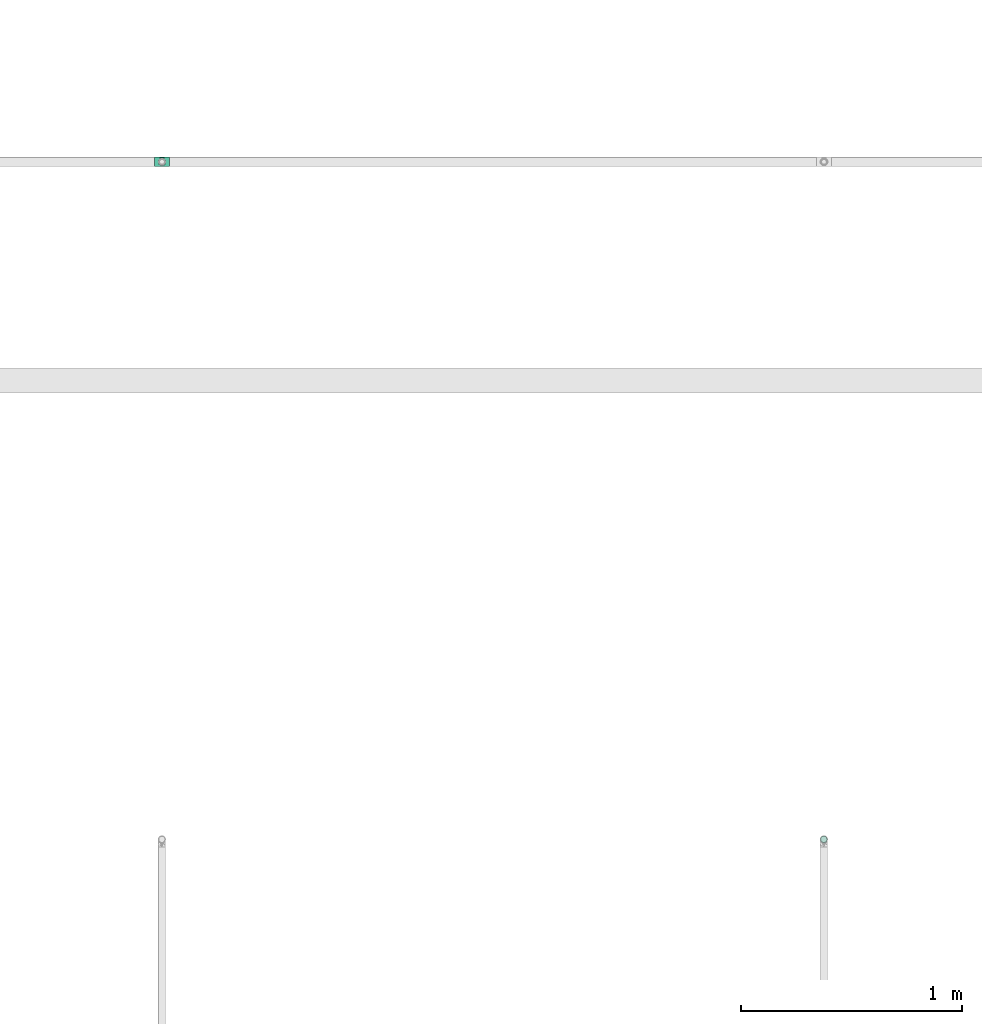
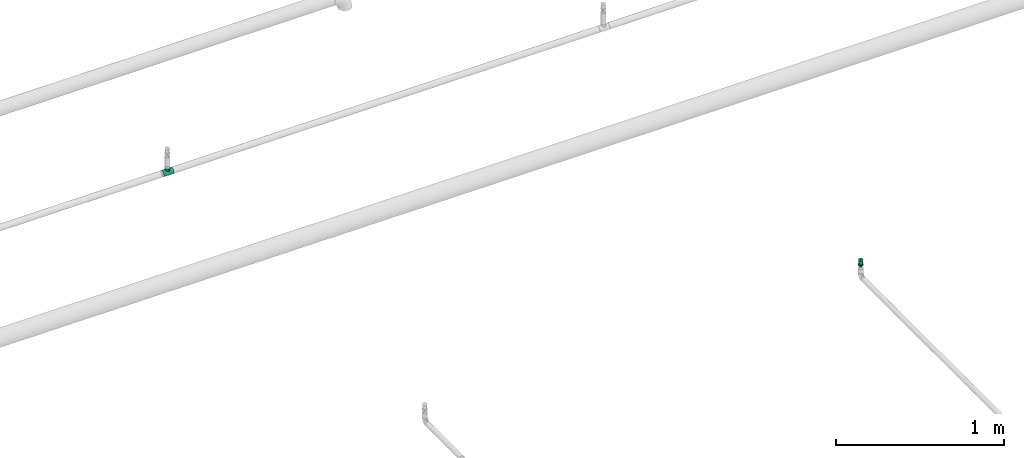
# One storey, part 28 of 94: 1 flow fitting, 1 flow terminal.
"""IFC2X3 building model written with IfcOpenShell, lengths in millimetres."""

from ifc_helpers import new_model, entity, si_unit, converted_unit, derived_unit, direction, frame, origin_with_axes, place, context, subcontext, project, spatial, open_shell, surface_model, source, transform, mapped, type_object, element, save


model = new_model("IFC2X3")

# Units and contexts
model_context = context("Model", 3, precision=0.01, world=frame((0.0, 4.29681676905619e-09, 0.0)), true_north=direction((4.01073788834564e-13, 1.0)))
plan_context = context("Plan", 3, precision=0.01, world=frame((0.0, 4.29681676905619e-09, 0.0)), true_north=direction((4.01073788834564e-13, 1.0)))
body_context = subcontext(model_context, "Body", "Model", "MODEL_VIEW")
ifc_project = project(units=[converted_unit("PLANEANGLEUNIT", "DEGREE", entity("IfcPositiveLengthMeasure", 0.0174532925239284), si_unit("PLANEANGLEUNIT", "RADIAN"), dimensions=[0, 0, 0, 0, 0, 0, 0]), si_unit("AREAUNIT", "SQUARE_METRE"), si_unit("LENGTHUNIT", "METRE", prefix="MILLI"), si_unit("MASSUNIT", "GRAM", prefix="KILO"), si_unit("POWERUNIT", "WATT"), si_unit("PRESSUREUNIT", "PASCAL"), si_unit("FORCEUNIT", "NEWTON", prefix="KILO"), si_unit("ELECTRICCURRENTUNIT", "AMPERE"), si_unit("THERMODYNAMICTEMPERATUREUNIT", "DEGREE_CELSIUS"), si_unit("TIMEUNIT", "SECOND"), si_unit("VOLUMEUNIT", "CUBIC_METRE"), derived_unit("LINEARVELOCITYUNIT", [(si_unit("LENGTHUNIT", "METRE"), 1), (si_unit("TIMEUNIT", "SECOND"), -1)]), derived_unit("VOLUMETRICFLOWRATEUNIT", [(si_unit("VOLUMEUNIT", "CUBIC_METRE"), 1), (si_unit("TIMEUNIT", "SECOND"), -1)]), derived_unit("THERMALTRANSMITTANCEUNIT", [(si_unit("POWERUNIT", "WATT"), 1), (si_unit("THERMODYNAMICTEMPERATUREUNIT", "KELVIN"), -1), (si_unit("AREAUNIT", "SQUARE_METRE"), -1)])], contexts=[model_context, plan_context])

# Site, building, storey
site_placement = place(None, frame((0.0, -4.29681676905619e-09, 0.0), z_axis=(0.0, 0.0, 1.0), x_axis=(1.0, 0.0, 0.0)))
site = spatial("IfcSite", under=ifc_project, at=site_placement, CompositionType="ELEMENT")
building_placement = place(site_placement, frame((0.0, 4.29681676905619e-09, 0.0), z_axis=(0.0, 0.0, 1.0), x_axis=(1.0, 0.0, 0.0)))
building = spatial("IfcBuilding", under=site, at=building_placement, Name="mc-building", CompositionType="ELEMENT")
storey_placement = place(building_placement, frame((0.0, 0.0, 200300.0), z_axis=(0.0, 0.0, 1.0), x_axis=(1.0, 0.0, 0.0)))
storey = spatial("IfcBuildingStorey", under=building, at=storey_placement, Name="Nivå C", CompositionType="ELEMENT", Elevation=200300.0)

# Flow fitting
pipe_fitting_type = type_object("IfcPipeFittingType", Name="magi_pipe_fe_tee_centric_90_NOR", PredefinedType="JUNCTION")
shared_shape_1 = source(origin_with_axes(), body_context, "Body", "SurfaceModel", [
    surface_model("IfcShellBasedSurfaceModel", [(-33.8, 0.0, -21.2), (-33.8, -5.48696, -20.47763), (-33.8, 5.48696, -20.47763), (-33.8, 10.6, -18.35974), (-33.8, 14.99066, -14.99066), (-33.8, -20.47763, 5.48696), (-33.8, 18.35974, -10.6), (-33.8, 10.6, 18.35974), (-33.8, -14.99066, -14.99066), (-33.8, -18.35974, -10.6), (-33.8, -10.6, -18.35974), (-33.8, -20.47763, -5.48696), (-33.8, -21.2, 0.0), (-33.8, 18.35974, 10.6), (-33.8, 20.47763, -5.48696), (-33.8, 20.47763, 5.48696), (-33.8, 21.2, 0.0), (-33.8, 14.99066, 14.99066), (-33.8, 5.48696, 20.47763), (-33.8, 0.0, 21.2), (-33.8, -18.35974, 10.6), (-33.8, -14.99066, 14.99066), (-33.8, -10.6, 18.35974), (-33.8, -5.48696, 20.47763), (33.8, 5.48696, -20.47763), (33.8, -5.48696, -20.47763), (33.8, 0.0, -21.2), (33.8, 14.99066, -14.99066), (33.8, 10.6, -18.35974), (33.8, 18.35974, -10.6), (33.8, 20.47763, -5.48696), (33.8, -21.2, 0.0), (33.8, -10.6, -18.35974), (33.8, -18.35974, -10.6), (33.8, -14.99066, -14.99066), (33.8, -20.47763, -5.48696), (33.8, -20.47763, 5.48696), (33.8, 21.2, 0.0), (33.8, 20.47763, 5.48696), (33.8, 18.35974, 10.6), (33.8, 10.6, 18.35974), (33.8, 14.99066, 14.99066), (33.8, 0.0, 21.2), (33.8, 5.48696, 20.47763), (33.8, -14.99066, 14.99066), (33.8, -18.35974, 10.6), (33.8, -10.6, 18.35974), (33.8, -5.48696, 20.47763), (16.9, -21.2, 0.0), (15.78624, -20.32327, 6.03364), (12.81343, -18.11115, 11.01935), (8.52479, -15.37862, 14.59239), (3.07939, -13.16482, 16.61708), (-16.9, -21.2, 0.0), (-15.78686, -20.32375, 6.032), (-8.52604, -15.37932, 14.59166), (-3.0848, -13.16609, 16.61608), (-12.81602, -18.11299, 11.01634), (3.07939, -13.16482, -16.61708), (12.81343, -18.11115, -11.01935), (8.52479, -15.37862, -14.59239), (15.78624, -20.32327, -6.03364), (-3.0848, -13.16609, -16.61608), (-8.52604, -15.37932, -14.59166), (-12.81602, -18.11299, -11.01634), (-15.78686, -20.32375, -6.032), (4.37404, -31.8, -16.32415), (-16.9, -31.8, 0.0), (0.0, -31.8, -16.9), (14.63583, -31.8, -8.45), (8.45, -31.8, -14.63583), (16.32415, -31.8, -4.37404), (11.9501, -31.8, -11.9501), (-11.9501, -31.8, -11.9501), (-8.45, -31.8, -14.63583), (-4.37404, -31.8, -16.32415), (-14.63583, -31.8, -8.45), (-16.32415, -31.8, -4.37404), (16.9, -31.8, 0.0), (8.45, -31.8, 14.63583), (16.32415, -31.8, 4.37404), (14.63583, -31.8, 8.45), (-8.45, -31.8, 14.63583), (11.9501, -31.8, 11.9501), (4.37404, -31.8, 16.32415), (-16.32415, -31.8, 4.37404), (-11.9501, -31.8, 11.9501), (-14.63583, -31.8, 8.45), (0.0, -31.8, 16.9), (-4.37404, -31.8, 16.32415), (-16.34343, -20.76188, 3.016), (16.34312, -20.76163, 3.01682), (-0.00271, -13.16546, 16.61658), (16.34312, -20.76163, -3.01682), (-0.00271, -13.16546, -16.61658), (-16.34343, -20.76188, -3.016)], [open_shell([[[0, 1, 2]], [[3, 2, 4]], [[5, 2, 1]], [[4, 2, 6]], [[6, 2, 7]], [[8, 9, 10]], [[1, 10, 9]], [[9, 11, 1]], [[12, 1, 11]], [[5, 1, 12]], [[13, 14, 6]], [[13, 15, 16]], [[6, 7, 13]], [[5, 7, 2]], [[17, 13, 7]], [[18, 7, 19]], [[20, 21, 5]], [[22, 5, 21]], [[23, 19, 22]], [[7, 5, 22]], [[22, 19, 7]], [[16, 14, 13]], [[24, 25, 26]], [[27, 24, 28]], [[29, 30, 24]], [[29, 24, 27]], [[31, 24, 30]], [[32, 33, 34]], [[33, 32, 25]], [[33, 31, 35]], [[31, 33, 25]], [[25, 24, 31]], [[30, 36, 31]], [[37, 38, 39]], [[37, 39, 40]], [[37, 40, 36]], [[40, 39, 41]], [[42, 40, 43]], [[36, 44, 45]], [[44, 36, 46]], [[46, 42, 47]], [[46, 36, 40]], [[40, 42, 46]], [[37, 36, 30]], [[31, 36, 48]], [[49, 48, 36]], [[36, 45, 49]], [[45, 44, 50]], [[51, 50, 44]], [[52, 51, 44]], [[44, 46, 52]], [[45, 50, 49]], [[53, 54, 5]], [[5, 12, 53]], [[54, 20, 5]], [[55, 56, 21]], [[20, 57, 21]], [[57, 20, 54]], [[21, 57, 55]], [[56, 22, 21]], [[52, 22, 56]], [[19, 47, 42]], [[23, 46, 47]], [[18, 42, 43]], [[39, 38, 15]], [[17, 40, 41]], [[13, 41, 39]], [[43, 40, 7]], [[16, 38, 37]], [[22, 46, 23]], [[23, 47, 19]], [[18, 19, 42]], [[43, 7, 18]], [[7, 40, 17]], [[13, 17, 41]], [[15, 13, 39]], [[38, 16, 15]], [[46, 22, 52]], [[6, 30, 29]], [[14, 37, 30]], [[4, 29, 27]], [[26, 25, 1]], [[2, 28, 24]], [[0, 24, 26]], [[27, 28, 3]], [[10, 25, 32]], [[16, 37, 14]], [[14, 30, 6]], [[4, 6, 29]], [[27, 3, 4]], [[3, 28, 2]], [[0, 2, 24]], [[1, 0, 26]], [[25, 10, 1]], [[32, 58, 10]], [[34, 59, 60]], [[59, 34, 33]], [[60, 58, 34]], [[34, 58, 32]], [[35, 31, 48]], [[35, 61, 33]], [[61, 35, 48]], [[33, 61, 59]], [[62, 63, 8]], [[8, 64, 9]], [[64, 8, 63]], [[62, 8, 10]], [[65, 53, 11]], [[65, 11, 9]], [[11, 53, 12]], [[65, 9, 64]], [[58, 62, 10]], [[66, 67, 68]], [[69, 66, 70]], [[69, 71, 66]], [[69, 70, 72]], [[67, 66, 71]], [[68, 73, 74]], [[74, 75, 68]], [[76, 67, 77]], [[73, 68, 76]], [[67, 76, 68]], [[71, 78, 67]], [[79, 78, 80]], [[79, 80, 81]], [[82, 67, 79]], [[79, 81, 83]], [[82, 79, 84]], [[85, 86, 87]], [[86, 85, 82]], [[82, 88, 89]], [[85, 67, 82]], [[84, 88, 82]], [[79, 67, 78]], [[85, 90, 67]], [[57, 87, 86]], [[85, 87, 54]], [[86, 82, 55]], [[85, 54, 90]], [[90, 53, 67]], [[54, 87, 57]], [[91, 49, 80]], [[55, 89, 56]], [[55, 57, 86]], [[88, 52, 92]], [[55, 82, 89]], [[52, 88, 84]], [[79, 51, 84]], [[50, 83, 81]], [[83, 51, 79]], [[81, 80, 49]], [[83, 50, 51]], [[51, 52, 84]], [[78, 91, 80]], [[49, 50, 81]], [[91, 78, 48]], [[88, 56, 89]], [[92, 56, 88]], [[71, 93, 78]], [[59, 69, 72]], [[71, 69, 61]], [[72, 70, 60]], [[93, 48, 78]], [[61, 69, 59]], [[60, 66, 58]], [[60, 59, 72]], [[68, 62, 94]], [[60, 70, 66]], [[95, 67, 53]], [[95, 65, 77]], [[71, 61, 93]], [[75, 62, 68]], [[65, 76, 77]], [[73, 76, 64]], [[68, 58, 66]], [[75, 63, 62]], [[63, 75, 74]], [[74, 73, 63]], [[63, 73, 64]], [[64, 76, 65]], [[67, 95, 77]], [[94, 58, 68]]])]),
])
flow_fitting_placement = place(storey_placement, frame((524508.72873, 407003.74497, 2850.0), z_axis=(0.0, -1.0, 0.0), x_axis=(-1.0, 0.0, 0.0)))
element("IfcFlowFitting", 1, at=flow_fitting_placement, inside=storey, type_object=pipe_fitting_type, Name="magi_pipe_fe_tee_centric_90_NOR", context=body_context, shape_type="MappedRepresentation", body=[
    mapped(shared_shape_1, transform((0.0, 0.0, 0.0), scale=1.0)),
])

# Flow terminal
fire_suppression_terminal_type = type_object("IfcFireSuppressionTerminalType", Name="68DGR-STD-STÅENDE", PredefinedType="NOTDEFINED")
shared_shape_2 = source(origin_with_axes(), body_context, "Body", "SurfaceModel", [
    surface_model("IfcShellBasedSurfaceModel", [(12.55704, 3.36465, 21.14766), (13.0, 0.0, 21.14766), (12.55704, -3.36465, 21.14766), (-12.55704, -3.36465, 21.14766), (-11.25833, -6.5, 21.14766), (-11.25833, -6.5, 51.0), (3.36465, -12.55704, 51.0), (3.36465, -12.55704, 21.14766), (6.5, -11.25833, 21.14766), (9.19239, -9.19239, 21.14766), (11.25833, -6.5, 21.14766), (9.19239, -9.19239, 51.0), (6.5, -11.25833, 51.0), (11.25833, -6.5, 51.0), (12.55704, -3.36465, 51.0), (13.0, 0.0, 51.0), (9.19239, 9.19239, 51.0), (11.25833, 6.5, 21.14766), (9.19239, 9.19239, 21.14766), (11.25833, 6.5, 51.0), (12.55704, 3.36465, 51.0), (6.5, 11.25833, 51.0), (6.5, 11.25833, 21.14766), (3.36465, 12.55704, 21.14766), (3.36465, 12.55704, 51.0), (-11.25833, 6.5, 51.0), (-11.25833, 6.5, 21.14766), (-12.55704, 3.36465, 21.14766), (0.0, -2.5, 51.0), (-2.5, 0.0, 51.0), (0.0, 2.5, 51.0), (2.5, 0.0, 51.0), (11.31371, 11.31371, 53.0), (-11.31371, 11.31371, 53.0), (-11.31371, -11.31371, 53.0), (11.31371, -11.31371, 53.0), (1.62635, 1.62635, 51.0), (2.16506, 1.25, 51.0), (1.99186, 1.15, 51.0), (-1.76777, 1.76777, 51.0), (-1.25, 2.16506, 51.0), (-1.62635, 1.62635, 51.0), (1.99186, -1.15, 51.0), (2.16506, -1.25, 51.0), (1.62635, -1.62635, 51.0), (-1.62635, -1.62635, 51.0), (-1.25, -2.16506, 51.0), (-1.76777, -1.76777, 51.0), (0.0, 7.3, 0.0), (1.94114, 7.24444, 0.0), (1.88938, 7.05126, 0.0), (5.16188, 5.16188, 0.0), (6.49519, 3.75, 0.0), (6.32199, 3.65, 0.0), (-5.3033, 5.3033, 0.0), (-3.75, 6.49519, 0.0), (-5.16188, 5.16188, 0.0), (6.32199, -3.65, 0.0), (6.49519, -3.75, 0.0), (5.16188, -5.16188, 0.0), (1.88938, -7.05126, 0.0), (1.94114, -7.24444, 0.0), (0.0, -7.3, 0.0), (-5.16188, -5.16188, 0.0), (-3.75, -6.49519, 0.0), (-5.3033, -5.3033, 0.0), (-3.36465, 12.55704, 51.0), (-6.5, 11.25833, 51.0), (0.0, 13.0, 51.0), (-9.19239, 9.19239, 51.0), (0.0, -13.0, 51.0), (-9.19239, -9.19239, 51.0), (-12.55704, -3.36465, 51.0), (-6.5, -11.25833, 51.0), (-3.36465, -12.55704, 51.0), (-7.5, 0.0, -0.1), (-7.24444, 1.94114, 0.1), (-7.24444, 1.94114, -0.1), (-6.49519, 3.75, 0.1), (-6.49519, 3.75, -0.1), (-3.75, 6.49519, -0.1), (-5.3033, 5.3033, -0.1), (-3.75, 6.49519, 0.1), (-5.3033, 5.3033, 0.1), (-1.94114, 7.24444, -0.1), (-1.94114, 7.24444, 0.1), (-7.5, 0.0, 0.1), (0.0, 7.5, 0.1), (0.0, 7.5, -0.1), (1.94114, 7.24444, 0.1), (1.94114, 7.24444, -0.1), (3.75, 6.49519, 0.1), (3.75, 6.49519, -0.1), (6.49519, 3.75, -0.1), (5.3033, 5.3033, -0.1), (6.49519, 3.75, 0.1), (5.3033, 5.3033, 0.1), (7.24444, 1.94114, -0.1), (7.24444, 1.94114, 0.1), (7.5, 0.0, 0.1), (7.5, 0.0, -0.1), (-7.24444, -1.94114, 0.1), (7.24444, -1.94114, 0.1), (5.3033, -5.3033, 0.1), (6.49519, -3.75, 0.1), (-6.49519, -3.75, 0.1), (0.0, -7.5, 0.1), (1.94114, -7.24444, 0.1), (3.75, -6.49519, 0.1), (-3.75, -6.49519, 0.1), (-1.94114, -7.24444, 0.1), (-5.3033, -5.3033, 0.1), (0.0, -7.5, -0.1), (-6.49519, -3.75, -0.1), (1.94114, -7.24444, -0.1), (3.75, -6.49519, -0.1), (5.3033, -5.3033, -0.1), (7.24444, -1.94114, -0.1), (6.49519, -3.75, -0.1), (-3.75, -6.49519, -0.1), (-5.3033, -5.3033, -0.1), (-1.94114, -7.24444, -0.1), (-7.24444, -1.94114, -0.1), (16.0, 0.0, 53.0), (0.0, -16.0, 53.0), (-16.0, 0.0, 53.0), (0.0, 16.0, 53.0), (0.64705, 2.41481, 57.0), (0.0, 2.5, 57.0), (1.25, 2.16506, 57.0), (-2.5, 0.0, 57.0), (1.76777, 1.76777, 57.0), (2.41481, 0.64705, 57.0), (2.16506, 1.25, 57.0), (-0.64705, 2.41481, 57.0), (-1.25, 2.16506, 57.0), (-1.76777, 1.76777, 57.0), (-2.16506, 1.25, 57.0), (-2.41481, 0.64705, 57.0), (2.5, 0.0, 57.0), (1.76777, -1.76777, 57.0), (2.16506, -1.25, 57.0), (2.41481, -0.64705, 57.0), (-2.41481, -0.64705, 57.0), (0.64705, -2.41481, 57.0), (1.25, -2.16506, 57.0), (0.0, -2.5, 57.0), (-1.76777, -1.76777, 57.0), (-2.16506, -1.25, 57.0), (-1.25, -2.16506, 57.0), (-0.64705, -2.41481, 57.0), (1.15, -1.99186, 51.0), (1.76777, -1.76777, 51.0), (1.25, -2.16506, 51.0), (0.59528, -2.22163, 51.0), (0.0, -2.3, 51.0), (0.64705, -2.41481, 51.0), (2.22163, -0.59528, 51.0), (2.3, 0.0, 51.0), (2.41481, -0.64705, 51.0), (-0.64705, -2.41481, 51.0), (-0.59528, -2.22163, 51.0), (-1.15, -1.99186, 51.0), (-2.16506, -1.25, 51.0), (-1.99186, -1.15, 51.0), (-2.22163, -0.59528, 51.0), (-2.3, 0.0, 51.0), (-2.41481, -0.64705, 51.0), (2.22163, 0.59528, 51.0), (2.41481, 0.64705, 51.0), (1.76777, 1.76777, 51.0), (1.15, 1.99186, 51.0), (1.25, 2.16506, 51.0), (0.59528, 2.22163, 51.0), (0.0, 2.3, 51.0), (0.64705, 2.41481, 51.0), (-1.99186, 1.15, 51.0), (-2.16506, 1.25, 51.0), (-2.41481, 0.64705, 51.0), (-2.22163, 0.59528, 51.0), (-0.64705, 2.41481, 51.0), (-0.59528, 2.22163, 51.0), (-1.15, 1.99186, 51.0), (-2.22163, 0.59528, 56.8), (-1.99186, 1.15, 56.8), (-1.15, 1.99186, 56.8), (-1.62635, 1.62635, 56.8), (-0.59528, 2.22163, 56.8), (-2.3, 0.0, 56.8), (0.0, 2.3, 56.8), (0.59528, 2.22163, 56.8), (1.15, 1.99186, 56.8), (1.99186, 1.15, 56.8), (1.62635, 1.62635, 56.8), (2.22163, 0.59528, 56.8), (2.3, 0.0, 56.8), (2.22163, -0.59528, 56.8), (1.99186, -1.15, 56.8), (1.62635, -1.62635, 56.8), (1.15, -1.99186, 56.8), (0.59528, -2.22163, 56.8), (0.0, -2.3, 56.8), (-1.99186, -1.15, 56.8), (-2.22163, -0.59528, 56.8), (-1.62635, -1.62635, 56.8), (-0.59528, -2.22163, 56.8), (-1.15, -1.99186, 56.8), (8.0, -13.85641, 13.0), (4.1411, -15.45481, 13.0), (0.0, -16.0, 13.0), (-4.1411, -15.45481, 13.0), (15.45481, -4.1411, 13.0), (13.85641, -8.0, 13.0), (11.31371, -11.31371, 13.0), (-16.0, 0.0, 13.0), (-8.0, -13.85641, 13.0), (-11.31371, -11.31371, 13.0), (-13.85641, -8.0, 13.0), (-15.45481, -4.1411, 13.0), (15.45481, 4.1411, 13.0), (4.1411, 15.45481, 13.0), (13.85641, 8.0, 13.0), (8.0, 13.85641, 13.0), (11.31371, 11.31371, 13.0), (-15.45481, 4.1411, 13.0), (-11.31371, 11.31371, 13.0), (-8.0, 13.85641, 13.0), (-13.85641, 8.0, 13.0), (-4.1411, 15.45481, 13.0), (0.0, 16.0, 13.0), (16.0, 0.0, 13.0), (7.05126, 1.88938, 12.8), (1.88938, 7.05126, 12.8), (3.65, 6.32199, 12.8), (6.32199, 3.65, 12.8), (5.16188, 5.16188, 12.8), (7.3, 0.0, 12.8), (0.0, 7.3, 12.8), (-3.65, 6.32199, 12.8), (-1.88938, 7.05126, 12.8), (-5.16188, 5.16188, 12.8), (-7.05126, 1.88938, 12.8), (-6.32199, 3.65, 12.8), (7.05126, -1.88938, 12.8), (0.0, -7.3, 12.8), (6.32199, -3.65, 12.8), (3.65, -6.32199, 12.8), (5.16188, -5.16188, 12.8), (1.88938, -7.05126, 12.8), (-7.3, 0.0, 12.8), (-6.32199, -3.65, 12.8), (-7.05126, -1.88938, 12.8), (-1.88938, -7.05126, 12.8), (-5.16188, -5.16188, 12.8), (-3.65, -6.32199, 12.8), (-7.05126, 1.88938, 0.0), (-7.3, 0.0, 0.0), (-6.32199, 3.65, 0.0), (-3.65, 6.32199, 0.0), (-1.88938, 7.05126, 0.0), (3.65, 6.32199, 0.0), (7.05126, 1.88938, 0.0), (7.3, 0.0, 0.0), (3.75, 6.49519, 13.0), (1.94114, 7.24444, 13.0), (7.5, 0.0, 13.0), (5.3033, 5.3033, 13.0), (7.24444, 1.94114, 13.0), (6.49519, 3.75, 13.0), (-5.3033, 5.3033, 13.0), (-7.24444, -1.94114, 13.0), (-1.94114, 7.24444, 13.0), (-3.75, 6.49519, 13.0), (0.0, 7.5, 13.0), (-6.49519, 3.75, 13.0), (-7.24444, 1.94114, 13.0), (7.24444, -1.94114, 13.0), (5.3033, -5.3033, 13.0), (6.49519, -3.75, 13.0), (-6.49519, -3.75, 13.0), (0.0, -7.5, 13.0), (1.94114, -7.24444, 13.0), (3.75, -6.49519, 13.0), (-7.5, 0.0, 13.0), (-3.75, -6.49519, 13.0), (-1.94114, -7.24444, 13.0), (-5.3033, -5.3033, 13.0), (3.65, -6.32199, 0.0), (5.3033, -5.3033, 0.0), (3.75, -6.49519, 0.0), (0.0, -7.5, 0.0), (7.05126, -1.88938, 0.0), (7.24444, -1.94114, 0.0), (7.5, 0.0, 0.0), (-1.94114, -7.24444, 0.0), (-1.88938, -7.05126, 0.0), (-3.65, -6.32199, 0.0), (-6.49519, -3.75, 0.0), (-6.32199, -3.65, 0.0), (-7.05126, -1.88938, 0.0), (-7.24444, -1.94114, 0.0), (-7.5, 0.0, 0.0), (7.24444, 1.94114, 0.0), (5.3033, 5.3033, 0.0), (3.75, 6.49519, 0.0), (0.0, 7.5, 0.0), (-6.49519, 3.75, 0.0), (-7.24444, 1.94114, 0.0), (-1.94114, 7.24444, 0.0), (-12.55704, 3.36465, 51.0), (-13.0, 0.0, 51.0), (0.0, -13.0, 21.14766), (-3.36465, -12.55704, 21.14766), (-6.5, -11.25833, 21.14766), (-9.19239, -9.19239, 21.14766), (-13.0, 0.0, 21.14766), (-9.19239, 9.19239, 21.14766), (-6.5, 11.25833, 21.14766), (-3.36465, 12.55704, 21.14766), (0.0, 13.0, 21.14766), (11.31371, 11.31371, 19.0), (8.0, 13.85641, 19.0), (4.1411, 15.45481, 19.0), (-8.0, 13.85641, 19.0), (16.0, 0.0, 19.0), (15.45481, 4.1411, 19.0), (13.85641, 8.0, 19.0), (-4.1411, 15.45481, 19.0), (0.0, 16.0, 19.0), (-11.31371, 11.31371, 19.0), (-13.85641, 8.0, 19.0), (-15.45481, 4.1411, 19.0), (15.45481, -4.1411, 19.0), (11.31371, -11.31371, 19.0), (13.85641, -8.0, 19.0), (-16.0, 0.0, 19.0), (0.0, -16.0, 19.0), (4.1411, -15.45481, 19.0), (8.0, -13.85641, 19.0), (-13.85641, -8.0, 19.0), (-11.31371, -11.31371, 19.0), (-15.45481, -4.1411, 19.0), (-8.0, -13.85641, 19.0), (-4.1411, -15.45481, 19.0)], [open_shell([[[0, 1, 2]], [[3, 4, 5]], [[6, 7, 8]], [[9, 10, 11]], [[9, 11, 12]], [[10, 13, 11]], [[14, 13, 2]], [[1, 15, 14]], [[16, 17, 18]], [[0, 19, 20]], [[20, 15, 1]], [[21, 16, 18]], [[22, 23, 24]], [[16, 19, 17]], [[25, 26, 27]], [[28, 29, 30]], [[30, 31, 28]], [[31, 30, 32]], [[33, 30, 29]], [[29, 28, 34]], [[35, 28, 31]], [[36, 37, 38]], [[39, 40, 41]], [[42, 43, 44]], [[45, 46, 47]], [[48, 49, 50]], [[51, 52, 53]], [[54, 55, 56]], [[57, 58, 59]], [[60, 61, 62]], [[63, 64, 65]], [[66, 67, 68]], [[67, 24, 68]], [[69, 25, 67]], [[15, 20, 14]], [[70, 6, 12]], [[5, 71, 72]], [[73, 74, 71]], [[72, 71, 74]], [[75, 76, 77]], [[77, 78, 79]], [[80, 81, 82]], [[83, 81, 79]], [[84, 80, 85]], [[76, 78, 77]], [[75, 86, 76]], [[80, 82, 85]], [[82, 81, 83]], [[79, 78, 83]], [[84, 85, 87]], [[87, 88, 84]], [[88, 89, 90]], [[90, 91, 92]], [[93, 94, 95]], [[96, 94, 92]], [[97, 93, 98]], [[91, 96, 92]], [[90, 89, 91]], [[97, 98, 99]], [[98, 93, 95]], [[94, 96, 95]], [[97, 99, 100]], [[87, 89, 88]], [[91, 89, 99]], [[96, 91, 98]], [[91, 99, 98]], [[95, 96, 98]], [[89, 83, 101]], [[85, 82, 87]], [[83, 87, 82]], [[78, 76, 83]], [[89, 87, 83]], [[76, 101, 83]], [[102, 99, 89]], [[103, 104, 102]], [[89, 105, 103]], [[103, 106, 107]], [[108, 103, 107]], [[106, 103, 105]], [[89, 101, 105]], [[101, 76, 86]], [[109, 110, 111]], [[105, 111, 110]], [[106, 105, 110]], [[103, 102, 89]], [[112, 113, 114]], [[115, 114, 116]], [[117, 118, 116]], [[113, 116, 114]], [[116, 113, 117]], [[119, 120, 121]], [[113, 121, 120]], [[121, 113, 112]], [[113, 122, 117]], [[75, 77, 122]], [[100, 117, 122]], [[100, 81, 97]], [[93, 97, 90]], [[90, 92, 94]], [[93, 90, 94]], [[90, 97, 81]], [[79, 81, 77]], [[77, 81, 122]], [[84, 88, 80]], [[81, 80, 88]], [[81, 88, 90]], [[100, 122, 81]], [[100, 102, 117]], [[117, 104, 118]], [[115, 116, 108]], [[103, 116, 118]], [[114, 115, 107]], [[102, 104, 117]], [[100, 99, 102]], [[115, 108, 107]], [[108, 116, 103]], [[118, 104, 103]], [[114, 107, 106]], [[106, 112, 114]], [[112, 110, 121]], [[121, 109, 119]], [[113, 120, 105]], [[111, 120, 119]], [[122, 113, 101]], [[109, 111, 119]], [[121, 110, 109]], [[122, 101, 86]], [[101, 113, 105]], [[120, 111, 105]], [[122, 86, 75]], [[106, 110, 112]], [[31, 123, 35]], [[35, 124, 28]], [[124, 34, 28]], [[29, 34, 125]], [[33, 32, 126]], [[33, 125, 124]], [[124, 32, 33]], [[124, 35, 123]], [[124, 125, 34]], [[123, 32, 124]], [[29, 125, 33]], [[33, 126, 30]], [[126, 32, 30]], [[31, 32, 123]], [[127, 128, 129]], [[129, 130, 131]], [[132, 131, 130]], [[133, 131, 132]], [[130, 129, 128]], [[134, 135, 128]], [[136, 128, 135]], [[137, 138, 136]], [[128, 136, 130]], [[138, 130, 136]], [[139, 132, 130]], [[140, 141, 142]], [[143, 140, 139]], [[144, 140, 143]], [[145, 140, 144]], [[146, 144, 147]], [[139, 130, 143]], [[143, 148, 144]], [[149, 150, 147]], [[144, 148, 147]], [[146, 147, 150]], [[140, 142, 139]], [[151, 152, 153]], [[154, 151, 153]], [[155, 154, 156]], [[153, 156, 154]], [[28, 155, 156]], [[44, 152, 151]], [[157, 158, 159]], [[31, 159, 158]], [[43, 157, 159]], [[152, 44, 43]], [[157, 43, 42]], [[160, 161, 28]], [[161, 155, 28]], [[162, 161, 160]], [[160, 46, 162]], [[162, 46, 45]], [[47, 163, 164]], [[165, 164, 163]], [[45, 47, 164]], [[166, 165, 167]], [[163, 167, 165]], [[29, 166, 167]], [[168, 169, 31]], [[38, 169, 168]], [[169, 38, 37]], [[170, 37, 36]], [[171, 172, 170]], [[173, 172, 171]], [[174, 175, 173]], [[172, 173, 175]], [[30, 175, 174]], [[170, 36, 171]], [[39, 176, 177]], [[41, 176, 39]], [[178, 177, 176]], [[178, 179, 29]], [[176, 179, 178]], [[179, 166, 29]], [[180, 30, 181]], [[182, 180, 181]], [[182, 41, 40]], [[180, 182, 40]], [[181, 30, 174]], [[31, 158, 168]], [[29, 138, 178]], [[178, 137, 177]], [[40, 39, 135]], [[136, 39, 177]], [[180, 40, 134]], [[138, 137, 178]], [[29, 130, 138]], [[40, 135, 134]], [[135, 39, 136]], [[177, 137, 136]], [[180, 134, 128]], [[128, 30, 180]], [[30, 127, 175]], [[175, 129, 172]], [[37, 170, 133]], [[131, 170, 172]], [[169, 37, 132]], [[129, 131, 172]], [[175, 127, 129]], [[169, 132, 139]], [[132, 37, 133]], [[170, 131, 133]], [[169, 139, 31]], [[128, 127, 30]], [[179, 183, 166]], [[176, 184, 179]], [[185, 41, 182]], [[176, 41, 186]], [[187, 182, 181]], [[179, 184, 183]], [[183, 188, 166]], [[187, 185, 182]], [[186, 41, 185]], [[186, 184, 176]], [[189, 187, 181]], [[181, 174, 189]], [[173, 190, 174]], [[171, 191, 173]], [[192, 36, 38]], [[171, 36, 193]], [[194, 38, 168]], [[171, 193, 191]], [[191, 190, 173]], [[195, 194, 168]], [[192, 38, 194]], [[192, 193, 36]], [[158, 195, 168]], [[174, 190, 189]], [[31, 142, 159]], [[159, 141, 43]], [[153, 152, 145]], [[140, 152, 43]], [[156, 153, 144]], [[142, 141, 159]], [[31, 139, 142]], [[153, 145, 144]], [[145, 152, 140]], [[43, 141, 140]], [[156, 144, 146]], [[146, 28, 156]], [[28, 150, 160]], [[160, 149, 46]], [[163, 47, 148]], [[147, 47, 46]], [[167, 163, 143]], [[149, 147, 46]], [[160, 150, 149]], [[167, 143, 130]], [[143, 163, 148]], [[47, 147, 148]], [[167, 130, 29]], [[146, 150, 28]], [[190, 191, 193]], [[190, 193, 195]], [[194, 195, 193]], [[194, 193, 192]], [[190, 195, 186]], [[189, 185, 187]], [[185, 189, 186]], [[186, 183, 184]], [[186, 189, 190]], [[186, 196, 183]], [[186, 195, 196]], [[196, 197, 198]], [[196, 198, 199]], [[199, 200, 201]], [[199, 201, 196]], [[196, 201, 202]], [[188, 202, 203]], [[183, 202, 188]], [[204, 205, 206]], [[205, 204, 202]], [[201, 205, 202]], [[202, 183, 196]], [[157, 196, 158]], [[42, 197, 157]], [[199, 44, 151]], [[42, 44, 198]], [[200, 151, 154]], [[157, 197, 196]], [[196, 195, 158]], [[200, 199, 151]], [[198, 44, 199]], [[198, 197, 42]], [[201, 200, 154]], [[154, 155, 201]], [[161, 205, 155]], [[162, 206, 161]], [[202, 45, 164]], [[162, 45, 204]], [[203, 164, 165]], [[162, 204, 206]], [[206, 205, 161]], [[188, 203, 165]], [[202, 164, 203]], [[202, 204, 45]], [[166, 188, 165]], [[155, 205, 201]], [[207, 208, 209]], [[207, 209, 210]], [[211, 212, 213]], [[213, 207, 214]], [[211, 213, 214]], [[215, 216, 210]], [[217, 210, 216]], [[217, 218, 210]], [[218, 207, 210]], [[218, 214, 207]], [[214, 219, 211]], [[220, 219, 214]], [[221, 219, 220]], [[220, 222, 223]], [[221, 220, 223]], [[214, 224, 220]], [[225, 226, 227]], [[224, 227, 226]], [[228, 229, 226]], [[220, 224, 226]], [[226, 229, 220]], [[219, 230, 211]], [[231, 232, 233]], [[234, 233, 235]], [[231, 236, 232]], [[231, 233, 234]], [[232, 236, 237]], [[237, 238, 239]], [[238, 237, 240]], [[240, 241, 242]], [[240, 237, 236]], [[236, 241, 240]], [[236, 243, 241]], [[244, 243, 245]], [[246, 245, 247]], [[246, 248, 244]], [[246, 244, 245]], [[243, 244, 249]], [[249, 250, 251]], [[250, 249, 252]], [[253, 252, 254]], [[252, 253, 250]], [[249, 244, 252]], [[243, 249, 241]], [[255, 241, 256]], [[257, 242, 255]], [[238, 56, 258]], [[257, 56, 240]], [[239, 258, 259]], [[255, 242, 241]], [[241, 249, 256]], [[239, 238, 258]], [[240, 56, 238]], [[240, 242, 257]], [[237, 239, 259]], [[259, 48, 237]], [[50, 232, 48]], [[260, 233, 50]], [[234, 51, 53]], [[260, 51, 235]], [[231, 53, 261]], [[260, 235, 233]], [[233, 232, 50]], [[236, 231, 261]], [[234, 53, 231]], [[234, 235, 51]], [[262, 236, 261]], [[48, 232, 237]], [[263, 264, 265]], [[266, 263, 267]], [[263, 265, 267]], [[268, 266, 267]], [[264, 269, 270]], [[271, 272, 273]], [[269, 273, 272]], [[274, 275, 269]], [[264, 273, 269]], [[275, 270, 269]], [[276, 265, 264]], [[277, 278, 276]], [[264, 279, 277]], [[277, 280, 281]], [[282, 277, 281]], [[280, 277, 279]], [[264, 270, 279]], [[270, 275, 283]], [[284, 285, 286]], [[279, 286, 285]], [[280, 279, 285]], [[277, 276, 264]], [[287, 288, 289]], [[60, 287, 289]], [[290, 62, 61]], [[289, 61, 60]], [[59, 288, 287]], [[291, 262, 292]], [[293, 292, 262]], [[58, 291, 292]], [[288, 59, 58]], [[291, 58, 57]], [[294, 295, 290]], [[296, 295, 294]], [[294, 64, 296]], [[64, 63, 296]], [[295, 62, 290]], [[65, 297, 298]], [[299, 298, 297]], [[63, 65, 298]], [[256, 299, 300]], [[297, 300, 299]], [[301, 256, 300]], [[261, 302, 293]], [[53, 302, 261]], [[302, 53, 52]], [[303, 52, 51]], [[260, 304, 303]], [[50, 304, 260]], [[304, 50, 49]], [[305, 49, 48]], [[303, 51, 260]], [[54, 257, 306]], [[56, 257, 54]], [[307, 306, 257]], [[307, 255, 301]], [[257, 255, 307]], [[255, 256, 301]], [[308, 305, 259]], [[258, 308, 259]], [[55, 258, 56]], [[308, 258, 55]], [[259, 305, 48]], [[293, 262, 261]], [[301, 275, 307]], [[307, 274, 306]], [[55, 54, 272]], [[269, 54, 306]], [[308, 55, 271]], [[275, 274, 307]], [[301, 283, 275]], [[55, 272, 271]], [[272, 54, 269]], [[306, 274, 269]], [[308, 271, 273]], [[273, 305, 308]], [[305, 264, 49]], [[49, 263, 304]], [[52, 303, 268]], [[266, 303, 304]], [[302, 52, 267]], [[263, 266, 304]], [[49, 264, 263]], [[302, 267, 265]], [[267, 52, 268]], [[303, 266, 268]], [[302, 265, 293]], [[273, 264, 305]], [[293, 276, 292]], [[292, 278, 58]], [[289, 288, 282]], [[277, 288, 58]], [[61, 289, 281]], [[276, 278, 292]], [[293, 265, 276]], [[289, 282, 281]], [[282, 288, 277]], [[58, 278, 277]], [[61, 281, 280]], [[280, 290, 61]], [[290, 285, 294]], [[294, 284, 64]], [[297, 65, 279]], [[286, 65, 64]], [[300, 297, 270]], [[284, 286, 64]], [[294, 285, 284]], [[300, 270, 283]], [[270, 297, 279]], [[65, 286, 279]], [[300, 283, 301]], [[280, 285, 290]], [[291, 243, 262]], [[57, 245, 291]], [[246, 59, 287]], [[57, 59, 247]], [[248, 287, 60]], [[291, 245, 243]], [[243, 236, 262]], [[248, 246, 287]], [[247, 59, 246]], [[247, 245, 57]], [[244, 248, 60]], [[60, 62, 244]], [[295, 252, 62]], [[296, 254, 295]], [[250, 63, 298]], [[296, 63, 253]], [[251, 298, 299]], [[296, 253, 254]], [[254, 252, 295]], [[249, 251, 299]], [[250, 298, 251]], [[250, 253, 63]], [[256, 249, 299]], [[62, 252, 244]], [[16, 21, 24]], [[20, 16, 24]], [[24, 67, 72]], [[19, 16, 20]], [[24, 72, 20]], [[25, 72, 67]], [[309, 310, 25]], [[11, 13, 14]], [[72, 11, 20]], [[74, 12, 11]], [[12, 74, 70]], [[72, 25, 310]], [[72, 74, 11]], [[11, 14, 20]], [[8, 7, 311]], [[8, 311, 312]], [[2, 10, 9]], [[3, 9, 8]], [[3, 26, 9]], [[313, 314, 312]], [[3, 312, 314]], [[4, 3, 314]], [[3, 8, 312]], [[315, 26, 3]], [[2, 9, 26]], [[0, 2, 26]], [[17, 0, 18]], [[23, 22, 18]], [[0, 23, 18]], [[23, 0, 26]], [[316, 317, 26]], [[26, 315, 27]], [[318, 319, 317]], [[23, 26, 317]], [[23, 317, 319]], [[316, 26, 25]], [[318, 317, 67]], [[69, 317, 316]], [[319, 318, 66]], [[310, 309, 315]], [[27, 315, 309]], [[25, 27, 309]], [[25, 69, 316]], [[317, 69, 67]], [[67, 66, 318]], [[66, 68, 319]], [[22, 21, 18]], [[0, 17, 19]], [[1, 0, 20]], [[68, 24, 23]], [[24, 21, 22]], [[319, 68, 23]], [[1, 14, 2]], [[2, 13, 10]], [[6, 311, 7]], [[6, 8, 12]], [[12, 8, 9]], [[6, 70, 311]], [[313, 312, 74]], [[313, 73, 314]], [[71, 4, 314]], [[315, 3, 72]], [[70, 74, 312]], [[74, 73, 313]], [[73, 71, 314]], [[71, 5, 4]], [[3, 5, 72]], [[72, 310, 315]], [[311, 70, 312]], [[320, 321, 322]], [[320, 322, 323]], [[320, 324, 325]], [[326, 320, 325]], [[324, 320, 323]], [[327, 323, 328]], [[323, 322, 328]], [[329, 330, 323]], [[331, 323, 330]], [[323, 331, 324]], [[331, 332, 324]], [[333, 334, 332]], [[335, 333, 331]], [[336, 337, 338]], [[335, 338, 333]], [[338, 335, 336]], [[339, 340, 341]], [[335, 341, 340]], [[342, 343, 340]], [[335, 340, 343]], [[343, 336, 335]], [[332, 331, 333]], [[214, 331, 224]], [[224, 330, 227]], [[226, 225, 323]], [[329, 225, 227]], [[228, 226, 327]], [[331, 330, 224]], [[214, 335, 331]], [[226, 323, 327]], [[323, 225, 329]], [[227, 330, 329]], [[228, 327, 328]], [[328, 229, 228]], [[229, 322, 220]], [[220, 321, 222]], [[221, 223, 326]], [[320, 223, 222]], [[219, 221, 325]], [[321, 320, 222]], [[220, 322, 321]], [[219, 325, 324]], [[325, 221, 326]], [[223, 320, 326]], [[219, 324, 230]], [[328, 322, 229]], [[230, 332, 211]], [[211, 334, 212]], [[207, 213, 338]], [[333, 213, 212]], [[208, 207, 337]], [[332, 334, 211]], [[230, 324, 332]], [[207, 338, 337]], [[338, 213, 333]], [[212, 334, 333]], [[208, 337, 336]], [[336, 209, 208]], [[209, 343, 210]], [[210, 342, 215]], [[217, 216, 339]], [[340, 216, 215]], [[218, 217, 341]], [[342, 340, 215]], [[210, 343, 342]], [[218, 341, 335]], [[341, 217, 339]], [[216, 340, 339]], [[218, 335, 214]], [[336, 343, 209]]])]),
])
flow_terminal_placement = place(storey_placement, frame((527508.12395, 403933.19532, 2972.0), z_axis=(0.0, 0.0, 1.0), x_axis=(-1.0, 0.0, 0.0)))
element("IfcFlowTerminal", 2, at=flow_terminal_placement, inside=storey, type_object=fire_suppression_terminal_type, Name="68DGR-STD-STÅENDE", context=body_context, shape_type="MappedRepresentation", body=[
    mapped(shared_shape_2, transform((0.0, 0.0, 0.0), scale=1.0)),
])

save(model, "model.ifc")
